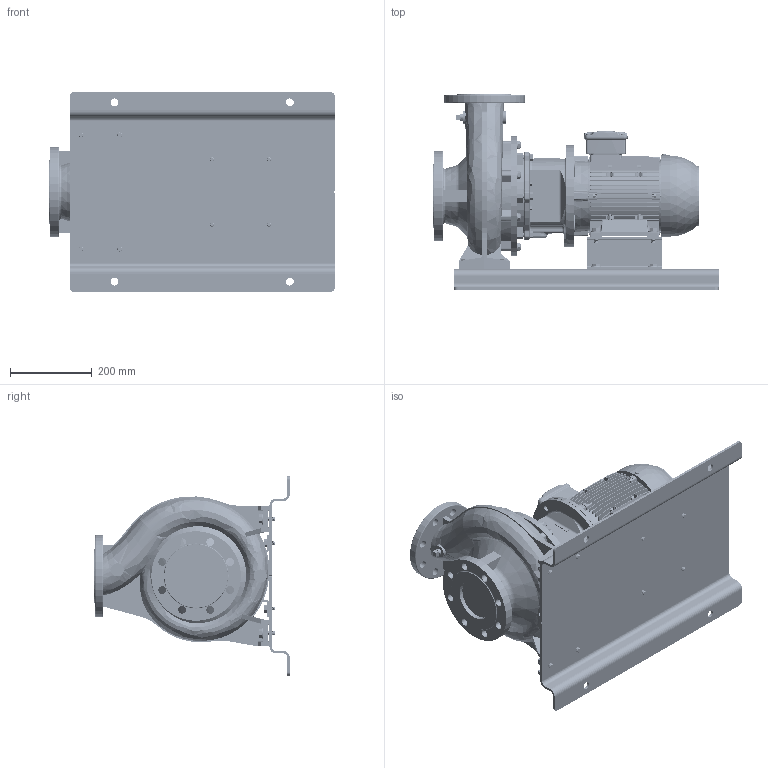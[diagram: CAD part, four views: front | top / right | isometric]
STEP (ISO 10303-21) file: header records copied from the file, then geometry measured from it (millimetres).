
FILE_DESCRIPTION (( 'STEP AP214' ), '1' );
FILE_NAME ('GSD4 80-200_3.0_(100L)_W21_BP.STEP', '2026-05-08T06:51:04', ( '' ), ( '' ), 'SwSTEP 2.0', 'SolidWorks 2024', '' );
FILE_SCHEMA (( 'AUTOMOTIVE_DESIGN' ));
Length unit declared in the file: millimetre
Products named in the file (13): Parametric Flat Washer_M10; Parametric bolt and washer_SFT-A249B; Parametric bolt_SFT-A253B; Parametric bolt and washer_SFT-A253B; 100L ALIE3_W21T_B35; Parametric bolt_SFT-A299B; 140 x 80 - 271472220; Parametric bolt and washer_SFT-A299B; Parametric Flat Washer_M12; GSD4 80-200_3.0_(100L)_W21_BP; N5S5 GSDA-553 F1-1832916-00; Parametric bolt_SFT-A249B; 80-200-100L_ﾃﾞﾌｫﾙﾄ
Assembly tree (23 placements, depth 3):
  GSD4 80-200_3.0_(100L)_W21_BP
    80-200-100L_ﾃﾞﾌｫﾙﾄ
    100L ALIE3_W21T_B35
    N5S5 GSDA-553 F1-1832916-00
    140 x 80 - 271472220  x2
    Parametric bolt and washer_SFT-A249B  x4
      Parametric bolt_SFT-A249B
      Parametric Flat Washer_M10
    Parametric bolt and washer_SFT-A253B  x4
      Parametric bolt_SFT-A253B
      Parametric Flat Washer_M10
    Parametric bolt and washer_SFT-A299B  x4
      Parametric bolt_SFT-A299B
      Parametric Flat Washer_M12
Bounding box: 700 x 480 x 490 mm (x, y, z)
Volume: 25490817.9 mm3; surface area: 2394323.2 mm2
Topology: 32 solids, 32 shells, 4439 faces, 11568 edges, 7441 vertices
Faces by surface type: plane 2415, cylinder 1200, torus 321, cone 243, bspline 242, sphere 18
Entity records: 192467 total; most frequent: CARTESIAN_POINT 98280, ORIENTED_EDGE 20386, DIRECTION 18220, EDGE_CURVE 10193, VERTEX_POINT 6561, LINE 6286, VECTOR 6286, AXIS2_PLACEMENT_3D 5967
